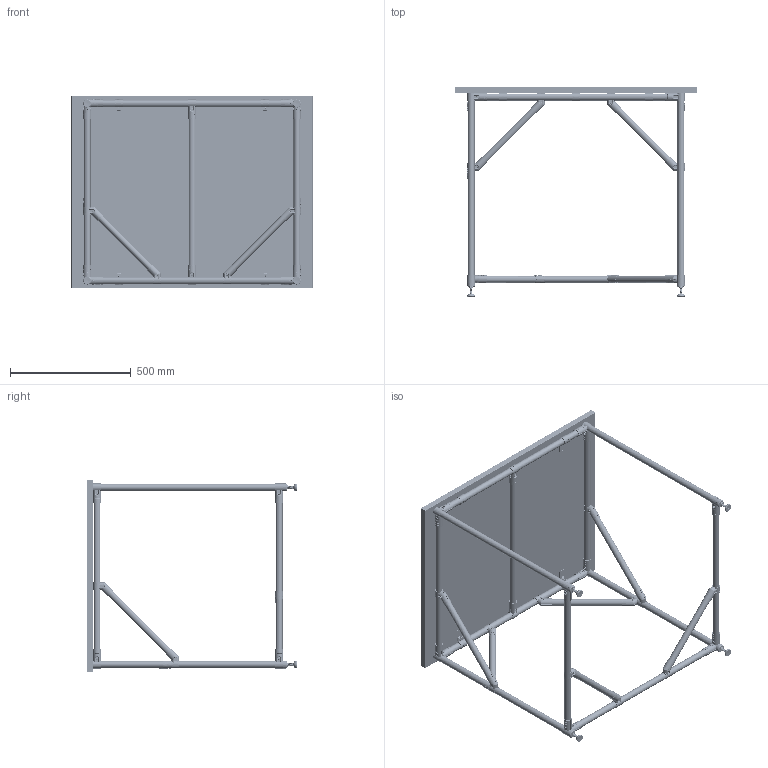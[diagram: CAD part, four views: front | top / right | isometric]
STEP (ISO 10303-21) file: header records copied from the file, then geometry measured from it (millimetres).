
FILE_DESCRIPTION (( 'STEP AP214' ), '1' );
FILE_NAME ('RSI-WSF-1000x800.STEP', '2026-09-01T09:26:13', ( 'Àëåêñåé' ), ( '' ), 'SwSTEP 2.0', 'SolidWorks 2022', '' );
FILE_SCHEMA (( 'AUTOMOTIVE_DESIGN' ));
Length unit declared in the file: millimetre
Products named in the file (11): RSI-DF14B; PR-28X2-A_L=400 мм; RSI-DF1B; Столешница 1000х800; RSI-DF15B; PR-28X2-A_L=800 мм; RSI-DF2B; RSI-FH1200LV2; RSI-WSF-1000x800; PR-28X2-A_L=350 мм; PR-28X2-A_L=665 мм
Assembly tree (49 placements, depth 2):
  RSI-WSF-1000x800
    PR-28X2-A_L=800 мм  x7
    PR-28X2-A_L=665 мм  x5
    PR-28X2-A_L=400 мм  x2
    RSI-DF14B  x12
    RSI-DF15B  x4
    RSI-DF2B  x6
    Столешница 1000х800
    RSI-DF1B  x4
    PR-28X2-A_L=350 мм  x4
    RSI-FH1200LV2  x4
Bounding box: 1000 x 870.2 x 800 mm (x, y, z)
Volume: 22407210.7 mm3; surface area: 4101350.8 mm2
Topology: 139 solids, 155 shells, 9062 faces, 23418 edges, 15154 vertices
Faces by surface type: cylinder 3612, plane 3242, bspline 1352, cone 492, torus 324, sphere 40
Full cylindrical faces by diameter (mm): 10 x4, 24 x18, 28 x18
Entity records: 102380 total; most frequent: CARTESIAN_POINT 62514, ORIENTED_EDGE 7664, DIRECTION 5465, EDGE_CURVE 3832, VERTEX_POINT 2488, AXIS2_PLACEMENT_3D 2014, B_SPLINE_CURVE_WITH_KNOTS 1629, EDGE_LOOP 1620
